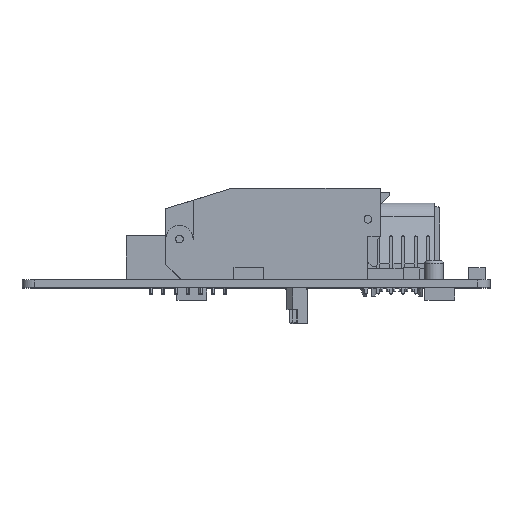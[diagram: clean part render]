
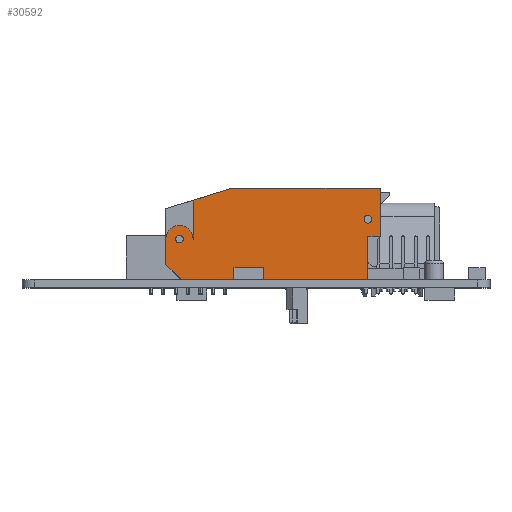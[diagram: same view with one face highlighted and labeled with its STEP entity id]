
A CAD part, top view. The second image highlights one B-rep face of the part: STEP entity #30592.
In plain terms, the highlighted planar face has unit normal (0, 0, 1).
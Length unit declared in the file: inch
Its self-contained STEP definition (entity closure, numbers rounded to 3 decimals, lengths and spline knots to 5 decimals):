
#95 = EDGE_CURVE ( 'NONE', #21853, #260144, #94067, .T. ) ;
#2927 = LINE ( 'NONE', #98956, #236834 ) ;
#3000 = CARTESIAN_POINT ( 'NONE',  ( -0.6175, 0.33, 1.455 ) ) ;
#5482 = CARTESIAN_POINT ( 'NONE',  ( -0.5075, 0.64349, 1.455 ) ) ;
#9325 = EDGE_CURVE ( 'NONE', #35635, #263659, #2927, .T. ) ;
#9520 = VECTOR ( 'NONE', #226109, 39.37008 ) ;
#16316 = CIRCLE ( 'NONE', #138340, 0.031 ) ;
#21853 = VERTEX_POINT ( 'NONE', #5482 ) ;
#24543 = DIRECTION ( 'NONE',  ( -1., 0., 0. ) ) ;
#24909 = VECTOR ( 'NONE', #98628, 39.37008 ) ;
#25761 = ORIENTED_EDGE ( 'NONE', *, *, #79913, .F. ) ;
#30592 = ADVANCED_FACE ( 'NONE', ( #256395, #92470, #142611 ), #138235, .F. ) ;
#30896 = VECTOR ( 'NONE', #272590, 39.37008 ) ;
#31791 = ORIENTED_EDGE ( 'NONE', *, *, #185692, .F. ) ;
#32934 = ORIENTED_EDGE ( 'NONE', *, *, #165524, .F. ) ;
#35635 = VERTEX_POINT ( 'NONE', #111091 ) ;
#36469 = DIRECTION ( 'NONE',  ( 0., 0., 1. ) ) ;
#36702 = CIRCLE ( 'NONE', #118309, 0.031 ) ;
#37207 = CARTESIAN_POINT ( 'NONE',  ( 1.0025, 0.35, 1.455 ) ) ;
#52792 = DIRECTION ( 'NONE',  ( 0., 0., 1. ) ) ;
#53282 = DIRECTION ( 'NONE',  ( 0., 0., -1. ) ) ;
#56965 = CARTESIAN_POINT ( 'NONE',  ( -0.1975, 0.74, 1.455 ) ) ;
#57318 = ORIENTED_EDGE ( 'NONE', *, *, #62256, .T. ) ;
#59085 = CIRCLE ( 'NONE', #208697, 0.031 ) ;
#60807 = CARTESIAN_POINT ( 'NONE',  ( 0.9025, 0.49, 1.455 ) ) ;
#61365 = CARTESIAN_POINT ( 'NONE',  ( 0.9025, 0.35, 1.455 ) ) ;
#62256 = EDGE_CURVE ( 'NONE', #21853, #107118, #81501, .T. ) ;
#63571 = ORIENTED_EDGE ( 'NONE', *, *, #9325, .F. ) ;
#66255 = LINE ( 'NONE', #98066, #9520 ) ;
#66855 = CARTESIAN_POINT ( 'NONE',  ( 0.9335, 0.49, 1.455 ) ) ;
#66902 = VERTEX_POINT ( 'NONE', #268975 ) ;
#67967 = CARTESIAN_POINT ( 'NONE',  ( 1.0025, 0.74, 1.455 ) ) ;
#71437 = CARTESIAN_POINT ( 'NONE',  ( -1.8875, 0., 1.455 ) ) ;
#71669 = CARTESIAN_POINT ( 'NONE',  ( 1.0025, 0.35, 1.455 ) ) ;
#74350 = ORIENTED_EDGE ( 'NONE', *, *, #117716, .F. ) ;
#76199 = ORIENTED_EDGE ( 'NONE', *, *, #169795, .F. ) ;
#77812 = EDGE_LOOP ( 'NONE', ( #57318, #244955, #63571, #74350, #204353, #25761, #120262, #269020, #177029, #94803 ) ) ;
#78188 = VECTOR ( 'NONE', #129947, 39.37008 ) ;
#79913 = EDGE_CURVE ( 'NONE', #248098, #274603, #166566, .T. ) ;
#81501 = LINE ( 'NONE', #269719, #24909 ) ;
#82249 = DIRECTION ( 'NONE',  ( -1., 0., 0. ) ) ;
#87519 = LINE ( 'NONE', #37207, #30896 ) ;
#89806 = EDGE_CURVE ( 'NONE', #259852, #252260, #248790, .T. ) ;
#92470 = FACE_OUTER_BOUND ( 'NONE', #77812, .T. ) ;
#92853 = DIRECTION ( 'NONE',  ( -1., 0., 0. ) ) ;
#94067 = LINE ( 'NONE', #56965, #251251 ) ;
#94803 = ORIENTED_EDGE ( 'NONE', *, *, #95, .F. ) ;
#98066 = CARTESIAN_POINT ( 'NONE',  ( -0.6025, 0., 1.455 ) ) ;
#98628 = DIRECTION ( 'NONE',  ( 0., -1., 0. ) ) ;
#98956 = CARTESIAN_POINT ( 'NONE',  ( -0.7275, 0.575, 1.455 ) ) ;
#106494 = EDGE_CURVE ( 'NONE', #260144, #259852, #214530, .T. ) ;
#107118 = VERTEX_POINT ( 'NONE', #238654 ) ;
#108538 = CARTESIAN_POINT ( 'NONE',  ( 1.0025, 0.74, 1.455 ) ) ;
#111091 = CARTESIAN_POINT ( 'NONE',  ( -0.7275, 0.125, 1.455 ) ) ;
#117716 = EDGE_CURVE ( 'NONE', #240472, #35635, #66255, .T. ) ;
#118309 = AXIS2_PLACEMENT_3D ( 'NONE', #180616, #52792, #202135 ) ;
#118926 = VECTOR ( 'NONE', #92853, 39.37008 ) ;
#120262 = ORIENTED_EDGE ( 'NONE', *, *, #149592, .F. ) ;
#121382 = DIRECTION ( 'NONE',  ( 0.955, 0.297, 0. ) ) ;
#124209 = DIRECTION ( 'NONE',  ( 0., 0., 1. ) ) ;
#125594 = LINE ( 'NONE', #71437, #118926 ) ;
#126275 = CARTESIAN_POINT ( 'NONE',  ( -0.6025, 0., 1.455 ) ) ;
#129947 = DIRECTION ( 'NONE',  ( 0., -1., 0. ) ) ;
#138235 = PLANE ( 'NONE',  #200743 ) ;
#138340 = AXIS2_PLACEMENT_3D ( 'NONE', #60807, #210181, #82249 ) ;
#142600 = VERTEX_POINT ( 'NONE', #254812 ) ;
#142611 = FACE_BOUND ( 'NONE', #211722, .T. ) ;
#149592 = EDGE_CURVE ( 'NONE', #252260, #248098, #87519, .T. ) ;
#149842 = VERTEX_POINT ( 'NONE', #66855 ) ;
#152398 = DIRECTION ( 'NONE',  ( 0., 0., 1. ) ) ;
#153591 = EDGE_CURVE ( 'NONE', #66902, #149842, #16316, .T. ) ;
#159749 = CARTESIAN_POINT ( 'NONE',  ( 1.0025, 0.74, 1.455 ) ) ;
#163987 = CIRCLE ( 'NONE', #245188, 0.031 ) ;
#164301 = CARTESIAN_POINT ( 'NONE',  ( 0.9025, 0.49, 1.455 ) ) ;
#164403 = VECTOR ( 'NONE', #217424, 39.37008 ) ;
#164508 = CARTESIAN_POINT ( 'NONE',  ( 1.0025, 0.74, 1.455 ) ) ;
#165524 = EDGE_CURVE ( 'NONE', #149842, #66902, #59085, .T. ) ;
#166566 = LINE ( 'NONE', #61365, #273600 ) ;
#169795 = EDGE_CURVE ( 'NONE', #142600, #201999, #36702, .T. ) ;
#177029 = ORIENTED_EDGE ( 'NONE', *, *, #106494, .F. ) ;
#180616 = CARTESIAN_POINT ( 'NONE',  ( -0.6175, 0.33, 1.455 ) ) ;
#184570 = CARTESIAN_POINT ( 'NONE',  ( 0.9025, 0., 1.455 ) ) ;
#185692 = EDGE_CURVE ( 'NONE', #201999, #142600, #163987, .T. ) ;
#185749 = DIRECTION ( 'NONE',  ( -1., 0., 0. ) ) ;
#190210 = CIRCLE ( 'NONE', #262855, 0.11 ) ;
#192760 = EDGE_CURVE ( 'NONE', #107118, #263659, #190210, .T. ) ;
#200743 = AXIS2_PLACEMENT_3D ( 'NONE', #159749, #53282, #202644 ) ;
#201999 = VERTEX_POINT ( 'NONE', #261501 ) ;
#202135 = DIRECTION ( 'NONE',  ( -1., 0., 0. ) ) ;
#202370 = CARTESIAN_POINT ( 'NONE',  ( 0.9025, 0.35, 1.455 ) ) ;
#202644 = DIRECTION ( 'NONE',  ( -1., 0., 0. ) ) ;
#204353 = ORIENTED_EDGE ( 'NONE', *, *, #223114, .F. ) ;
#208697 = AXIS2_PLACEMENT_3D ( 'NONE', #164301, #36469, #185749 ) ;
#210181 = DIRECTION ( 'NONE',  ( 0., 0., 1. ) ) ;
#211722 = EDGE_LOOP ( 'NONE', ( #32934, #233919 ) ) ;
#214530 = LINE ( 'NONE', #67967, #164403 ) ;
#217424 = DIRECTION ( 'NONE',  ( 1., 0., 0. ) ) ;
#223114 = EDGE_CURVE ( 'NONE', #274603, #240472, #125594, .T. ) ;
#224008 = CARTESIAN_POINT ( 'NONE',  ( -0.7275, 0.33, 1.455 ) ) ;
#226109 = DIRECTION ( 'NONE',  ( -0.707, 0.707, 0. ) ) ;
#233919 = ORIENTED_EDGE ( 'NONE', *, *, #153591, .F. ) ;
#236834 = VECTOR ( 'NONE', #248553, 39.37008 ) ;
#238654 = CARTESIAN_POINT ( 'NONE',  ( -0.5075, 0.33, 1.455 ) ) ;
#239188 = CARTESIAN_POINT ( 'NONE',  ( -0.1975, 0.74, 1.455 ) ) ;
#240472 = VERTEX_POINT ( 'NONE', #126275 ) ;
#244955 = ORIENTED_EDGE ( 'NONE', *, *, #192760, .T. ) ;
#245188 = AXIS2_PLACEMENT_3D ( 'NONE', #3000, #152398, #24543 ) ;
#248098 = VERTEX_POINT ( 'NONE', #202370 ) ;
#248553 = DIRECTION ( 'NONE',  ( 0., 1., 0. ) ) ;
#248790 = LINE ( 'NONE', #108538, #78188 ) ;
#251251 = VECTOR ( 'NONE', #121382, 39.37008 ) ;
#252260 = VERTEX_POINT ( 'NONE', #71669 ) ;
#252336 = CARTESIAN_POINT ( 'NONE',  ( -0.6175, 0.33, 1.455 ) ) ;
#253812 = DIRECTION ( 'NONE',  ( 0., -1., 0. ) ) ;
#254812 = CARTESIAN_POINT ( 'NONE',  ( -0.5865, 0.33, 1.455 ) ) ;
#256395 = FACE_BOUND ( 'NONE', #271508, .T. ) ;
#259852 = VERTEX_POINT ( 'NONE', #164508 ) ;
#260144 = VERTEX_POINT ( 'NONE', #239188 ) ;
#261501 = CARTESIAN_POINT ( 'NONE',  ( -0.6485, 0.33, 1.455 ) ) ;
#262855 = AXIS2_PLACEMENT_3D ( 'NONE', #252336, #124209, #273786 ) ;
#263659 = VERTEX_POINT ( 'NONE', #224008 ) ;
#268975 = CARTESIAN_POINT ( 'NONE',  ( 0.8715, 0.49, 1.455 ) ) ;
#269020 = ORIENTED_EDGE ( 'NONE', *, *, #89806, .F. ) ;
#269719 = CARTESIAN_POINT ( 'NONE',  ( -0.5075, 0.64349, 1.455 ) ) ;
#271508 = EDGE_LOOP ( 'NONE', ( #76199, #31791 ) ) ;
#272590 = DIRECTION ( 'NONE',  ( -1., 0., 0. ) ) ;
#273600 = VECTOR ( 'NONE', #253812, 39.37008 ) ;
#273786 = DIRECTION ( 'NONE',  ( -1., 0., 0. ) ) ;
#274603 = VERTEX_POINT ( 'NONE', #184570 ) ;
